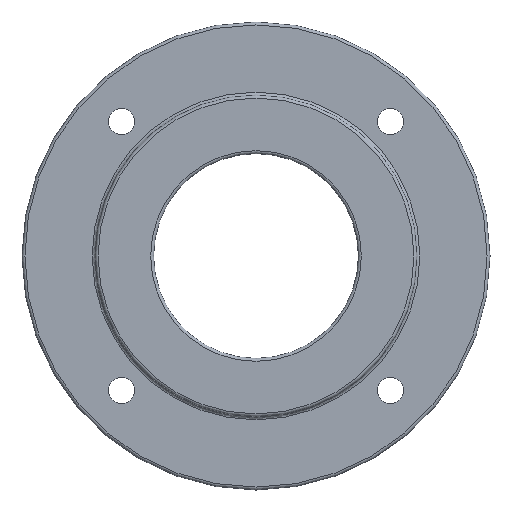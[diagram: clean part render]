
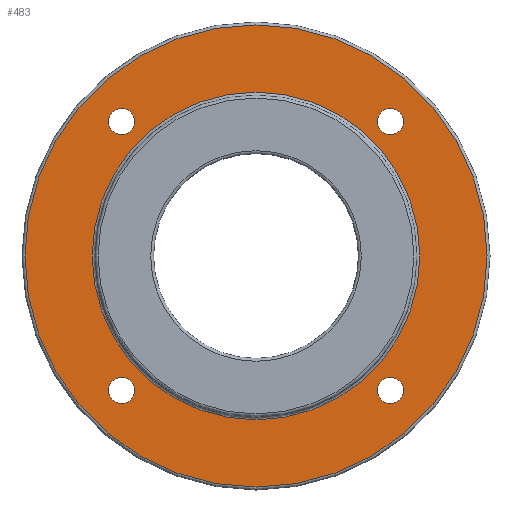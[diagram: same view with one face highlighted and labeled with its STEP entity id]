
A CAD part, front view. The second image highlights one B-rep face of the part: STEP entity #483.
In plain terms, the highlighted planar face has unit normal (0, -1, 0).
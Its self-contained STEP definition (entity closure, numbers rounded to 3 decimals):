
#105=CARTESIAN_POINT('',(-41.462,-26.5,45.962));
#106=VERTEX_POINT('',#105);
#107=CARTESIAN_POINT('',(-45.962,-26.5,45.962));
#108=DIRECTION('',(0.0,1.0,0.0));
#109=DIRECTION('',(1.0,0.0,0.0));
#110=AXIS2_PLACEMENT_3D('',#107,#108,#109);
#111=CIRCLE('',#110,4.5);
#112=EDGE_CURVE('',#106,#106,#111,.T.);
#154=CARTESIAN_POINT('',(-41.462,-26.5,-45.962));
#155=VERTEX_POINT('',#154);
#156=CARTESIAN_POINT('',(-45.962,-26.5,-45.962));
#157=DIRECTION('',(0.0,1.0,0.0));
#158=DIRECTION('',(1.0,0.0,0.0));
#159=AXIS2_PLACEMENT_3D('',#156,#157,#158);
#160=CIRCLE('',#159,4.5);
#161=EDGE_CURVE('',#155,#155,#160,.T.);
#203=CARTESIAN_POINT('',(50.462,-26.5,-45.962));
#204=VERTEX_POINT('',#203);
#205=CARTESIAN_POINT('',(45.962,-26.5,-45.962));
#206=DIRECTION('',(0.0,1.0,0.0));
#207=DIRECTION('',(1.0,0.0,0.0));
#208=AXIS2_PLACEMENT_3D('',#205,#206,#207);
#209=CIRCLE('',#208,4.5);
#210=EDGE_CURVE('',#204,#204,#209,.T.);
#252=CARTESIAN_POINT('',(50.462,-26.5,45.962));
#253=VERTEX_POINT('',#252);
#254=CARTESIAN_POINT('',(45.962,-26.5,45.962));
#255=DIRECTION('',(0.0,1.0,0.0));
#256=DIRECTION('',(1.0,0.0,0.0));
#257=AXIS2_PLACEMENT_3D('',#254,#255,#256);
#258=CIRCLE('',#257,4.5);
#259=EDGE_CURVE('',#253,#253,#258,.T.);
#437=CARTESIAN_POINT('',(-79.0,-26.5,0.0));
#438=VERTEX_POINT('',#437);
#439=CARTESIAN_POINT('',(0.0,-26.5,0.0));
#440=DIRECTION('',(0.0,1.0,0.0));
#441=DIRECTION('',(1.0,0.0,0.0));
#442=AXIS2_PLACEMENT_3D('',#439,#440,#441);
#443=CIRCLE('',#442,79.0);
#444=EDGE_CURVE('',#438,#438,#443,.T.);
#452=CARTESIAN_POINT('',(-67.5,-26.5,0.));
#453=DIRECTION('',(0.0,-1.0,0.0));
#454=DIRECTION('',(0.0,0.0,-1.0));
#455=AXIS2_PLACEMENT_3D('',#452,#453,#454);
#456=PLANE('',#455);
#457=ORIENTED_EDGE('',*,*,#444,.F.);
#458=EDGE_LOOP('',(#457));
#459=FACE_OUTER_BOUND('',#458,.T.);
#460=ORIENTED_EDGE('',*,*,#112,.T.);
#461=EDGE_LOOP('',(#460));
#462=FACE_BOUND('',#461,.T.);
#463=ORIENTED_EDGE('',*,*,#161,.T.);
#464=EDGE_LOOP('',(#463));
#465=FACE_BOUND('',#464,.T.);
#466=ORIENTED_EDGE('',*,*,#210,.T.);
#467=EDGE_LOOP('',(#466));
#468=FACE_BOUND('',#467,.T.);
#469=ORIENTED_EDGE('',*,*,#259,.T.);
#470=EDGE_LOOP('',(#469));
#471=FACE_BOUND('',#470,.T.);
#472=CARTESIAN_POINT('',(-56.0,-26.5,0.));
#473=VERTEX_POINT('',#472);
#474=CARTESIAN_POINT('',(0.0,-26.5,0.0));
#475=DIRECTION('',(0.0,-1.0,0.0));
#476=DIRECTION('',(1.0,0.0,0.0));
#477=AXIS2_PLACEMENT_3D('',#474,#475,#476);
#478=CIRCLE('',#477,56.0);
#479=EDGE_CURVE('',#473,#473,#478,.T.);
#480=ORIENTED_EDGE('',*,*,#479,.F.);
#481=EDGE_LOOP('',(#480));
#482=FACE_BOUND('',#481,.T.);
#483=ADVANCED_FACE('',(#459,#462,#465,#468,#471,#482),#456,.T.);
